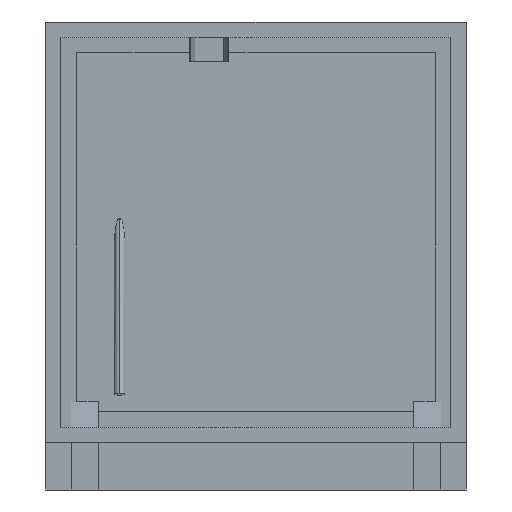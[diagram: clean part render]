
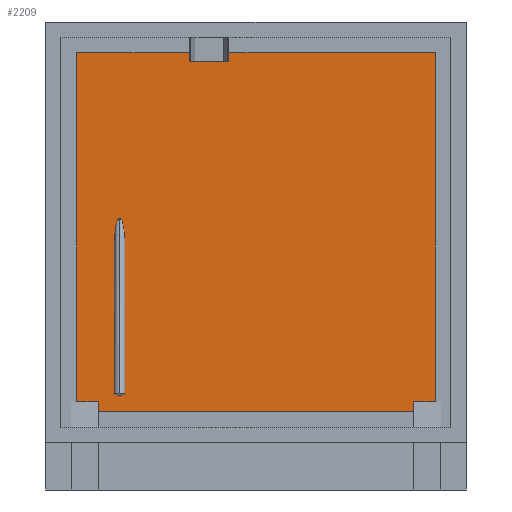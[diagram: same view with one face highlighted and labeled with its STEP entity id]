
A CAD part, front view. The second image highlights one B-rep face of the part: STEP entity #2209.
In plain terms, the highlighted planar face has unit normal (0, -1, 0).
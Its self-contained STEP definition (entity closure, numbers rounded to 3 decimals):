
#504=DIRECTION('',(0.,0.,-1.));
#505=VECTOR('',#504,25.329);
#506=CARTESIAN_POINT('',(-404.,-106.,-434.671));
#507=LINE('',#506,#505);
#528=DIRECTION('',(1.,0.,0.));
#529=VECTOR('',#528,56.);
#530=CARTESIAN_POINT('',(-460.,-106.,-434.671));
#531=LINE('',#530,#529);
#536=DIRECTION('',(1.,0.,0.));
#537=VECTOR('',#536,56.);
#538=CARTESIAN_POINT('',(404.,-106.,-434.671));
#539=LINE('',#538,#537);
#548=CARTESIAN_POINT('',(-120.,-106.,465.));
#549=DIRECTION('',(0.,1.,0.));
#550=DIRECTION('',(0.984,0.,-0.179));
#551=AXIS2_PLACEMENT_3D('',#548,#549,#550);
#553=DIRECTION('',(-1.,0.,0.));
#554=VECTOR('',#553,552.45);
#555=CARTESIAN_POINT('',(460.,-106.,460.));
#556=LINE('',#555,#554);
#557=DIRECTION('',(0.,0.,1.));
#558=VECTOR('',#557,894.671);
#559=CARTESIAN_POINT('',(460.,-106.,-434.671));
#560=LINE('',#559,#558);
#561=DIRECTION('',(1.,0.,0.));
#562=VECTOR('',#561,808.);
#563=CARTESIAN_POINT('',(-404.,-106.,-460.));
#564=LINE('',#563,#562);
#565=DIRECTION('',(0.,0.,-1.));
#566=VECTOR('',#565,894.671);
#567=CARTESIAN_POINT('',(-460.,-106.,460.));
#568=LINE('',#567,#566);
#569=DIRECTION('',(-1.,0.,0.));
#570=VECTOR('',#569,312.45);
#571=CARTESIAN_POINT('',(-147.55,-106.,460.));
#572=LINE('',#571,#570);
#573=CARTESIAN_POINT('',(-350.,-106.,35.773));
#574=CARTESIAN_POINT('',(-349.175,-106.,35.773));
#575=CARTESIAN_POINT('',(-347.463,-106.,35.019));
#576=CARTESIAN_POINT('',(-344.831,-106.,31.195));
#577=CARTESIAN_POINT('',(-342.294,-106.,24.482));
#578=CARTESIAN_POINT('',(-340.029,-106.,15.034));
#579=CARTESIAN_POINT('',(-338.5,-106.,5.319));
#580=CARTESIAN_POINT('',(-337.541,-106.,-3.154));
#581=CARTESIAN_POINT('',(-336.96,-106.,-9.745));
#582=CARTESIAN_POINT('',(-336.518,-106.,-16.46));
#583=CARTESIAN_POINT('',(-336.263,-106.,-22.07));
#584=CARTESIAN_POINT('',(-336.124,-106.,-26.518));
#585=CARTESIAN_POINT('',(-336.052,-106.,-29.824));
#586=CARTESIAN_POINT('',(-336.016,-106.,-32.543));
#587=CARTESIAN_POINT('',(-336.002,-106.,-34.695));
#588=CARTESIAN_POINT('',(-335.999,-106.,-36.292));
#589=CARTESIAN_POINT('',(-336.002,-106.,-37.889));
#590=CARTESIAN_POINT('',(-336.016,-106.,-40.041));
#591=CARTESIAN_POINT('',(-336.052,-106.,-42.761));
#592=CARTESIAN_POINT('',(-336.124,-106.,-46.066));
#593=CARTESIAN_POINT('',(-336.263,-106.,-50.514));
#594=CARTESIAN_POINT('',(-336.518,-106.,-56.124));
#595=CARTESIAN_POINT('',(-336.96,-106.,-62.84));
#596=CARTESIAN_POINT('',(-337.541,-106.,-69.431));
#597=CARTESIAN_POINT('',(-338.5,-106.,-77.904));
#598=CARTESIAN_POINT('',(-340.029,-106.,-87.618));
#599=CARTESIAN_POINT('',(-342.294,-106.,-97.066));
#600=CARTESIAN_POINT('',(-344.831,-106.,-103.779));
#601=CARTESIAN_POINT('',(-347.463,-106.,-107.603));
#602=CARTESIAN_POINT('',(-349.175,-106.,-108.357));
#603=CARTESIAN_POINT('',(-350.,-106.,-108.357));
#605=CARTESIAN_POINT('',(-350.,-106.,-108.357));
#606=CARTESIAN_POINT('',(-350.825,-106.,-108.357));
#607=CARTESIAN_POINT('',(-352.537,-106.,-107.603));
#608=CARTESIAN_POINT('',(-355.169,-106.,-103.779));
#609=CARTESIAN_POINT('',(-357.706,-106.,-97.066));
#610=CARTESIAN_POINT('',(-359.971,-106.,-87.618));
#611=CARTESIAN_POINT('',(-361.5,-106.,-77.904));
#612=CARTESIAN_POINT('',(-362.459,-106.,-69.431));
#613=CARTESIAN_POINT('',(-363.04,-106.,-62.84));
#614=CARTESIAN_POINT('',(-363.482,-106.,-56.124));
#615=CARTESIAN_POINT('',(-363.737,-106.,-50.514));
#616=CARTESIAN_POINT('',(-363.876,-106.,-46.066));
#617=CARTESIAN_POINT('',(-363.948,-106.,-42.761));
#618=CARTESIAN_POINT('',(-363.984,-106.,-40.041));
#619=CARTESIAN_POINT('',(-363.998,-106.,-37.889));
#620=CARTESIAN_POINT('',(-364.001,-106.,-36.292));
#621=CARTESIAN_POINT('',(-363.998,-106.,-34.695));
#622=CARTESIAN_POINT('',(-363.984,-106.,-32.543));
#623=CARTESIAN_POINT('',(-363.948,-106.,-29.824));
#624=CARTESIAN_POINT('',(-363.876,-106.,-26.518));
#625=CARTESIAN_POINT('',(-363.737,-106.,-22.07));
#626=CARTESIAN_POINT('',(-363.482,-106.,-16.46));
#627=CARTESIAN_POINT('',(-363.04,-106.,-9.745));
#628=CARTESIAN_POINT('',(-362.459,-106.,-3.154));
#629=CARTESIAN_POINT('',(-361.5,-106.,5.319));
#630=CARTESIAN_POINT('',(-359.971,-106.,15.034));
#631=CARTESIAN_POINT('',(-357.706,-106.,24.482));
#632=CARTESIAN_POINT('',(-355.169,-106.,31.195));
#633=CARTESIAN_POINT('',(-352.537,-106.,35.019));
#634=CARTESIAN_POINT('',(-350.825,-106.,35.773));
#635=CARTESIAN_POINT('',(-350.,-106.,35.773));
#690=DIRECTION('',(0.,0.,-1.));
#691=VECTOR('',#690,25.329);
#692=CARTESIAN_POINT('',(404.,-106.,-434.671));
#693=LINE('',#692,#691);
#1367=CARTESIAN_POINT('',(-92.45,-106.,460.));
#1368=CARTESIAN_POINT('',(-147.55,-106.,460.));
#1369=VERTEX_POINT('',#1367);
#1370=VERTEX_POINT('',#1368);
#1433=CARTESIAN_POINT('',(-350.,-106.,35.773));
#1434=VERTEX_POINT('',#1433);
#1435=CARTESIAN_POINT('',(-350.,-106.,-108.357));
#1436=VERTEX_POINT('',#1435);
#1445=CARTESIAN_POINT('',(-460.,-106.,460.));
#1446=CARTESIAN_POINT('',(-460.,-106.,-434.671));
#1447=VERTEX_POINT('',#1445);
#1448=VERTEX_POINT('',#1446);
#1449=CARTESIAN_POINT('',(-404.,-106.,-460.));
#1450=CARTESIAN_POINT('',(404.,-106.,-460.));
#1451=VERTEX_POINT('',#1449);
#1452=VERTEX_POINT('',#1450);
#1453=CARTESIAN_POINT('',(460.,-106.,-434.671));
#1454=CARTESIAN_POINT('',(460.,-106.,460.));
#1455=VERTEX_POINT('',#1453);
#1456=VERTEX_POINT('',#1454);
#1487=CARTESIAN_POINT('',(-404.,-106.,-434.671));
#1488=VERTEX_POINT('',#1487);
#1489=CARTESIAN_POINT('',(404.,-106.,-434.671));
#1490=VERTEX_POINT('',#1489);
#2180=CARTESIAN_POINT('',(0.,-106.,0.));
#2181=DIRECTION('',(0.,-1.,0.));
#2182=DIRECTION('',(1.,0.,0.));
#2183=AXIS2_PLACEMENT_3D('',#2180,#2181,#2182);
#2184=PLANE('',#2183);
#2186=ORIENTED_EDGE('',*,*,#2185,.F.);
#2188=ORIENTED_EDGE('',*,*,#2187,.F.);
#2190=ORIENTED_EDGE('',*,*,#2189,.F.);
#2191=ORIENTED_EDGE('',*,*,#2152,.F.);
#2193=ORIENTED_EDGE('',*,*,#2192,.T.);
#2195=ORIENTED_EDGE('',*,*,#2194,.F.);
#2196=ORIENTED_EDGE('',*,*,#2081,.F.);
#2197=ORIENTED_EDGE('',*,*,#2125,.F.);
#2198=ORIENTED_EDGE('',*,*,#2171,.F.);
#2200=ORIENTED_EDGE('',*,*,#2199,.F.);
#2201=EDGE_LOOP('',(#2186,#2188,#2190,#2191,#2193,#2195,#2196,#2197,#2198,
#2200));
#2202=FACE_OUTER_BOUND('',#2201,.F.);
#2204=ORIENTED_EDGE('',*,*,#2203,.F.);
#2206=ORIENTED_EDGE('',*,*,#2205,.F.);
#2207=EDGE_LOOP('',(#2204,#2206));
#2208=FACE_BOUND('',#2207,.F.);
#552=CIRCLE('',#551,28.);
#604=B_SPLINE_CURVE_WITH_KNOTS('',3,(#573,#574,#575,#576,#577,#578,#579,#580,
#581,#582,#583,#584,#585,#586,#587,#588,#589,#590,#591,#592,#593,#594,#595,#596,
#597,#598,#599,#600,#601,#602,#603),.UNSPECIFIED.,.F.,.F.,(4,1,1,1,1,1,1,1,1,1,
1,1,1,1,1,1,1,1,1,1,1,1,1,1,1,1,1,1,4),(0.,0.063,0.125,0.188,0.25,
0.313,0.344,0.375,0.406,0.438,0.453,0.469,0.484,
0.492,0.5,0.508,0.516,0.531,0.547,0.563,
0.594,0.625,0.656,0.688,0.75,0.813,0.875,0.938,1.),
.UNSPECIFIED.);
#636=B_SPLINE_CURVE_WITH_KNOTS('',3,(#605,#606,#607,#608,#609,#610,#611,#612,
#613,#614,#615,#616,#617,#618,#619,#620,#621,#622,#623,#624,#625,#626,#627,#628,
#629,#630,#631,#632,#633,#634,#635),.UNSPECIFIED.,.F.,.F.,(4,1,1,1,1,1,1,1,1,1,
1,1,1,1,1,1,1,1,1,1,1,1,1,1,1,1,1,1,4),(0.,0.063,0.125,0.188,0.25,
0.313,0.344,0.375,0.406,0.438,0.453,0.469,0.484,
0.492,0.5,0.508,0.516,0.531,0.547,0.563,
0.594,0.625,0.656,0.688,0.75,0.813,0.875,0.938,1.),
.UNSPECIFIED.);
#2081=EDGE_CURVE('',#1488,#1451,#507,.T.);
#2125=EDGE_CURVE('',#1448,#1488,#531,.T.);
#2152=EDGE_CURVE('',#1490,#1455,#539,.T.);
#2171=EDGE_CURVE('',#1447,#1448,#568,.T.);
#2185=EDGE_CURVE('',#1369,#1370,#552,.T.);
#2187=EDGE_CURVE('',#1456,#1369,#556,.T.);
#2189=EDGE_CURVE('',#1455,#1456,#560,.T.);
#2192=EDGE_CURVE('',#1490,#1452,#693,.T.);
#2194=EDGE_CURVE('',#1451,#1452,#564,.T.);
#2199=EDGE_CURVE('',#1370,#1447,#572,.T.);
#2203=EDGE_CURVE('',#1434,#1436,#604,.T.);
#2205=EDGE_CURVE('',#1436,#1434,#636,.T.);
#2209=ADVANCED_FACE('',(#2202,#2208),#2184,.T.);
